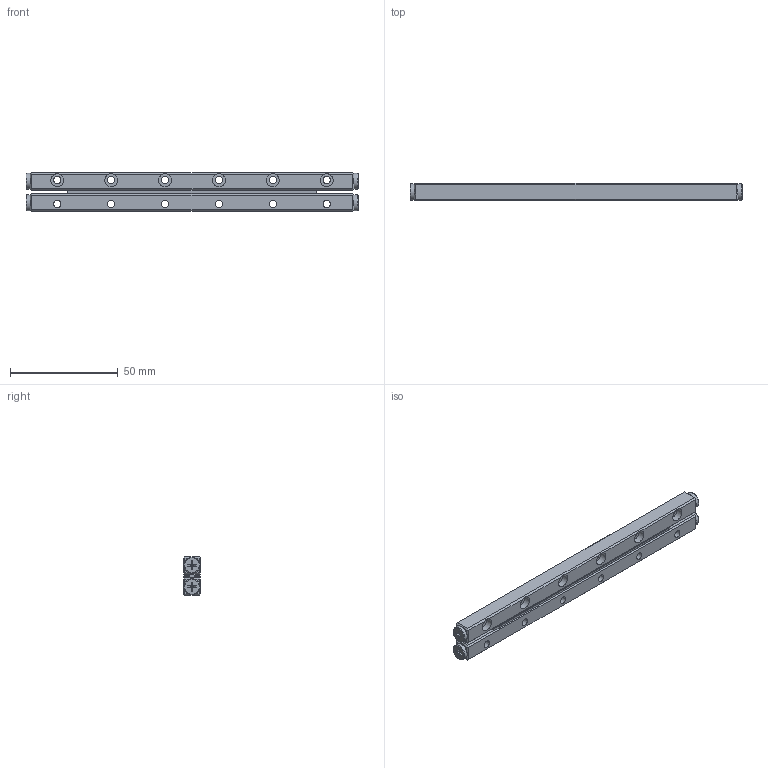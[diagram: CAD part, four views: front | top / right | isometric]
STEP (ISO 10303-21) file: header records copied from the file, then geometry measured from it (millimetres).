
FILE_DESCRIPTION (( 'STEP AP203' ), '1' );
FILE_NAME ('組合件-軌道組-GRV03-0150H-28Z-模糊化軌道組.STEP', '2022-11-28T08:42:41', ( '' ), ( '' ), 'SwSTEP 2.0', 'SolidWorks 2019', '' );
FILE_SCHEMA (( 'CONFIG_CONTROL_DESIGN' ));
Length unit declared in the file: millimetre
Products named in the file (1): 組合件-軌道組-GRV03-0150H-28Z-模糊化軌道組
Bounding box: 154 x 8 x 18 mm (x, y, z)
Volume: 18498.5 mm3; surface area: 14284.6 mm2
Topology: 3 solids, 31 shells, 742 faces, 1988 edges, 1264 vertices
Faces by surface type: plane 468, cylinder 118, cone 84, torus 72
Full cylindrical faces by diameter (mm): 2 x4, 2.55 x28, 3.4 x12, 6 x12, 7.5 x4
Entity records: 22141 total; most frequent: CARTESIAN_POINT 6095, ORIENTED_EDGE 3576, DIRECTION 2974, EDGE_CURVE 1788, VERTEX_POINT 1192, AXIS2_PLACEMENT_3D 1127, EDGE_LOOP 898, FACE_OUTER_BOUND 818
